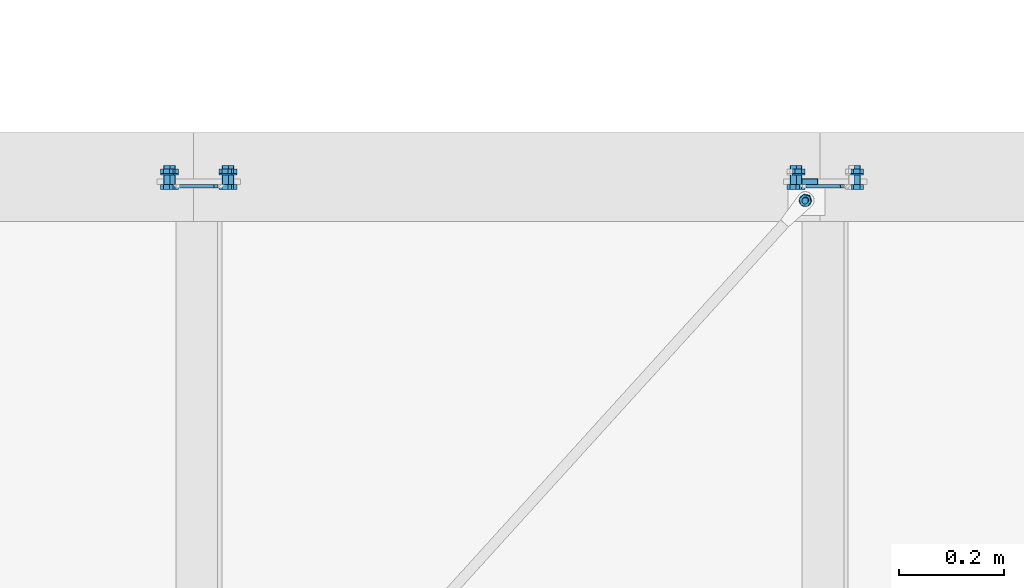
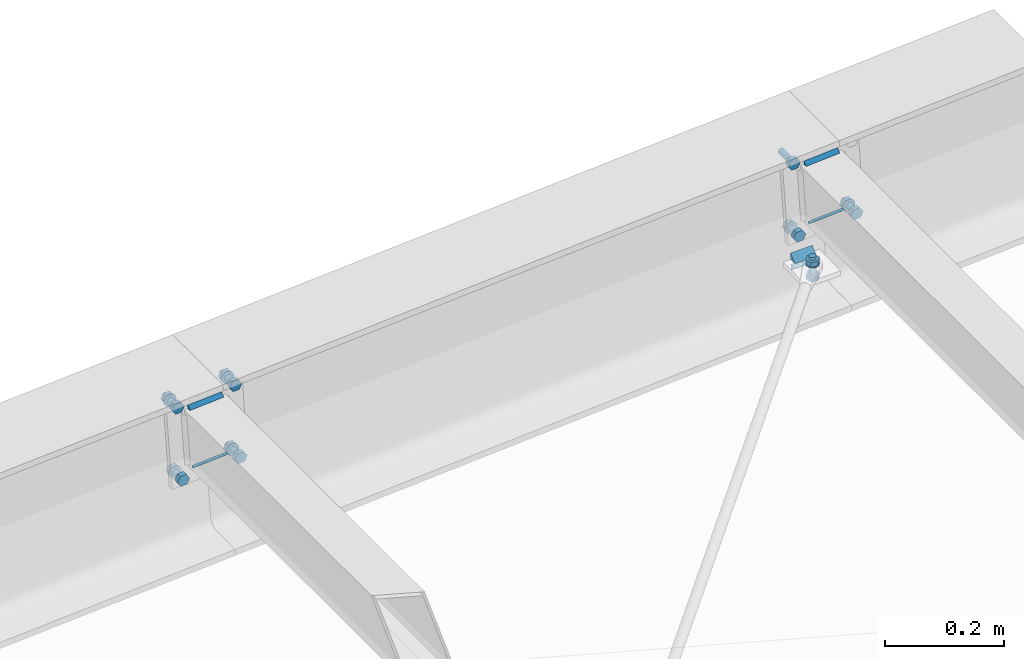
# One storey, part 70 of 72: 30 mechanical fasteners, 10 fasteners.
"""IFC4 building model written with IfcOpenShell, lengths in metres."""

from ifc_helpers import new_model, si_unit, frame, origin_with_axes, place, context, project, spatial, polyline, outline, extrude, type_object, element, save


model = new_model("IFC4")

# Units and contexts
model_context = context("Model", 3, precision=1e-05, world=origin_with_axes())
ifc_project = project(units=[si_unit("LENGTHUNIT", "METRE"), si_unit("AREAUNIT", "SQUARE_METRE"), si_unit("VOLUMEUNIT", "CUBIC_METRE"), si_unit("MASSUNIT", "GRAM", prefix="KILO"), si_unit("TIMEUNIT", "SECOND"), si_unit("PLANEANGLEUNIT", "RADIAN"), si_unit("SOLIDANGLEUNIT", "STERADIAN"), si_unit("THERMODYNAMICTEMPERATUREUNIT", "DEGREE_CELSIUS")], contexts=[model_context])

# Site, building, storey
placement_1 = place(None, origin_with_axes())
site = spatial("IfcSite", under=ifc_project, at=placement_1, Name="Italia", CompositionType="ELEMENT")
building = spatial("IfcBuilding", under=site, at=placement_1, Name="Pensilina", CompositionType="ELEMENT")
storey = spatial("IfcBuildingStorey", under=building, at=placement_1, Name="Storey 0", CompositionType="ELEMENT", Elevation=0.0)

# Fasteners
fastener_type_1 = type_object("IfcFastenerType", Name="Collegamento 0505_0504", PredefinedType="WELD")
placement_2 = place(placement_1, origin_with_axes())
fastener_1_placement = place(placement_2, origin_with_axes())
element("IfcFastener", 1, at=fastener_1_placement, inside=storey, type_object=fastener_type_1, Name="Collegamento 0505_0504", context=model_context, shape_type="SweptSolid", body=[
    extrude(outline(polyline([(0.0, 0.0, 0.0), (0.00717354, -0.00695872, 0.0), (0.0, -0.00695872, 0.0), (0.0, 0.0, 0.0)])), frame((4.64108, 21.106, 4.01231), z_axis=(-0.997731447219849, 0.0, -0.06731953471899), x_axis=(0.0, -1.0, 0.0)), (0.0, 0.0, 1.0), 0.0661003),
])
fastener_type_2 = type_object("IfcFastenerType", Name="Collegamento 0505_0504", PredefinedType="WELD")
fastener_2_placement = place(placement_2, origin_with_axes())
element("IfcFastener", 2, at=fastener_2_placement, inside=storey, type_object=fastener_type_2, Name="Collegamento 0505_0504", context=model_context, shape_type="SweptSolid", body=[
    extrude(outline(polyline([(0.0, 0.0, 0.0), (-0.00717354, 0.00695825, 0.0), (0.0, 0.00695825, 0.0), (0.0, 0.0, 0.0)])), frame((4.58414, 21.106, 3.87435), z_axis=(0.99773120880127, 0.0, 0.067323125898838), x_axis=(0.0, 1.0, 0.0)), (0.0, 0.0, 1.0), 0.0661004),
])
fastener_type_3 = type_object("IfcFastenerType", Name="Collegamento 0505_0504", PredefinedType="WELD")
fastener_3_placement = place(placement_2, origin_with_axes())
element("IfcFastener", 3, at=fastener_3_placement, inside=storey, type_object=fastener_type_3, Name="Collegamento 0505_0504", context=model_context, shape_type="SweptSolid", body=[
    extrude(outline(polyline([(0.0, 0.0, 0.0), (0.00717354, -0.00695872, 0.0), (0.0, -0.00695872, 0.0), (0.0, 0.0, 0.0)])), frame((4.64108, 21.106, 4.01231), z_axis=(-0.997731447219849, 0.0, -0.06731953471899), x_axis=(0.0, -1.0, 0.0)), (0.0, 0.0, 1.0), 0.0661003),
])
fastener_type_4 = type_object("IfcFastenerType", Name="Collegamento 0505_0504", PredefinedType="WELD")
fastener_4_placement = place(placement_2, origin_with_axes())
element("IfcFastener", 4, at=fastener_4_placement, inside=storey, type_object=fastener_type_4, Name="Collegamento 0505_0504", context=model_context, shape_type="SweptSolid", body=[
    extrude(outline(polyline([(0.0, 0.0, 0.0), (-0.00717354, 0.00695825, 0.0), (0.0, 0.00695825, 0.0), (0.0, 0.0, 0.0)])), frame((4.58414, 21.106, 3.87435), z_axis=(0.99773120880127, 0.0, 0.067323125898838), x_axis=(0.0, 1.0, 0.0)), (0.0, 0.0, 1.0), 0.0661004),
])

# Mechanical fasteners
mechanical_fastener_type_1 = type_object("IfcMechanicalFastenerType", Name="Collegamento 0505_0504", PredefinedType="BOLT")
mechanical_fastener_1_placement = place(placement_2, origin_with_axes())
element("IfcMechanicalFastener", 5, at=mechanical_fastener_1_placement, inside=storey, type_object=mechanical_fastener_type_1, Name="Collegamento 0505_0504", NominalDiameter=0.0119998, context=model_context, shape_type="SweptSolid", body=[
    extrude(outline(polyline([(0.0, 0.0, 0.0), (-0.0119729, -0.000808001, 0.0), (-0.0186586, 0.00915694, 0.0), (-0.0133719, 0.0199296, 0.0), (-0.00139904, 0.0207374, 0.0), (0.00528669, 0.0107725, 0.0), (0.0, 0.0, 0.0)])), frame((4.56854, 21.106, 3.85377), z_axis=(0.0, -1.0, 0.0), x_axis=(1.0, 0.0, 0.0)), (0.0, 0.0, 1.0), 0.00959969),
])
mechanical_fastener_type_2 = type_object("IfcMechanicalFastenerType", Name="Collegamento 0505_0504", PredefinedType="BOLT")
mechanical_fastener_2_placement = place(placement_2, origin_with_axes())
element("IfcMechanicalFastener", 6, at=mechanical_fastener_2_placement, inside=storey, type_object=mechanical_fastener_type_2, Name="Collegamento 0505_0504", NominalDiameter=0.012, context=model_context, shape_type="SweptSolid", body=[
    extrude(outline(polyline([(0.0, 0.0, 0.0), (-0.000204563, -0.00155282, 0.0), (-0.000803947, -0.00300002, 0.0), (-0.00175762, -0.00424266, 0.0), (-0.00300026, -0.00519609, 0.0), (-0.00444698, -0.00579548, 0.0), (-0.00600004, -0.00600004, 0.0), (-0.0075531, -0.00579548, 0.0), (-0.00899982, -0.00519609, 0.0), (-0.0102425, -0.00424266, 0.0), (-0.0111961, -0.00300002, 0.0), (-0.0117955, -0.00155282, 0.0), (-0.0120001, 0.0, 0.0), (-0.0117955, 0.00155282, 0.0), (-0.0111961, 0.00300002, 0.0), (-0.0102425, 0.00424266, 0.0), (-0.00899982, 0.00519609, 0.0), (-0.0075531, 0.00579548, 0.0), (-0.00600004, 0.00600004, 0.0), (-0.00444698, 0.00579548, 0.0), (-0.00300026, 0.00519609, 0.0), (-0.00175762, 0.00424266, 0.0), (-0.000803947, 0.00300002, 0.0), (-0.000204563, 0.00155282, 0.0), (0.0, 0.0, 0.0)])), frame((4.56785, 21.142, 3.86373), z_axis=(0.0, -1.0, 0.0), x_axis=(1.0, 0.0, 0.0)), (0.0, 0.0, 1.0), 0.0359993),
])
mechanical_fastener_type_3 = type_object("IfcMechanicalFastenerType", Name="Collegamento 0505_0504", PredefinedType="BOLT")
mechanical_fastener_3_placement = place(placement_2, origin_with_axes())
element("IfcMechanicalFastener", 7, at=mechanical_fastener_3_placement, inside=storey, type_object=mechanical_fastener_type_3, Name="Collegamento 0505_0504", NominalDiameter=0.0119998, context=model_context, shape_type="SweptSolid", body=[
    extrude(outline(polyline([(0.0, 0.0, 0.0), (-0.0119729, -0.000808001, 0.0), (-0.0186586, 0.00915694, 0.0), (-0.0133719, 0.0199296, 0.0), (-0.00139904, 0.0207374, 0.0), (0.00528669, 0.0107725, 0.0), (0.0, 0.0, 0.0)])), frame((4.56854, 21.1356, 3.85377), z_axis=(0.0, -1.0, 0.0), x_axis=(1.0, 0.0, 0.0)), (0.0, 0.0, 1.0), 0.00959969),
])
mechanical_fastener_type_4 = type_object("IfcMechanicalFastenerType", Name="Collegamento 0505_0504", PredefinedType="BOLT")
mechanical_fastener_4_placement = place(placement_2, origin_with_axes())
element("IfcMechanicalFastener", 8, at=mechanical_fastener_4_placement, inside=storey, type_object=mechanical_fastener_type_4, Name="Collegamento 0505_0504", NominalDiameter=0.024, context=model_context, shape_type="SweptSolid", body=[
    extrude(outline(polyline([(0.0, 0.0, 0.0), (-0.000409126, -0.00310588, 0.0), (-0.00160789, -0.00600004, 0.0), (-0.00351477, -0.00848532, 0.0), (-0.00600004, -0.0103922, 0.0), (-0.00889444, -0.0115912, 0.0), (-0.0120001, -0.0120001, 0.0), (-0.0151057, -0.0115912, 0.0), (-0.0180001, -0.0103922, 0.0), (-0.0204854, -0.00848532, 0.0), (-0.0223923, -0.00600004, 0.0), (-0.023591, -0.00310588, 0.0), (-0.0240002, 0.0, 0.0), (-0.023591, 0.00310588, 0.0), (-0.0223923, 0.00600004, 0.0), (-0.0204854, 0.00848532, 0.0), (-0.0180001, 0.0103922, 0.0), (-0.0151057, 0.0115912, 0.0), (-0.0120001, 0.0120001, 0.0), (-0.00889444, 0.0115912, 0.0), (-0.00600004, 0.0103922, 0.0), (-0.00351477, 0.00848532, 0.0), (-0.00160789, 0.00600004, 0.0), (-0.000409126, 0.00310588, 0.0), (0.0, 0.0, 0.0)])), frame((4.57385, 21.126, 3.86373), z_axis=(0.0, -1.0, 0.0), x_axis=(1.0, 0.0, 0.0)), (0.0, 0.0, 1.0), 0.00200081),
])
mechanical_fastener_type_5 = type_object("IfcMechanicalFastenerType", Name="Collegamento 0505_0504", PredefinedType="BOLT")
mechanical_fastener_5_placement = place(placement_2, origin_with_axes())
element("IfcMechanicalFastener", 9, at=mechanical_fastener_5_placement, inside=storey, type_object=mechanical_fastener_type_5, Name="Collegamento 0505_0504", NominalDiameter=0.0119998, context=model_context, shape_type="SweptSolid", body=[
    extrude(outline(polyline([(0.0, 0.0, 0.0), (-0.0119729, -0.000807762, 0.0), (-0.0186586, 0.00915718, 0.0), (-0.0133719, 0.0199296, 0.0), (-0.00139904, 0.0207376, 0.0), (0.00528669, 0.0107727, 0.0), (0.0, 0.0, 0.0)])), frame((4.68028, 21.106, 3.8613), z_axis=(0.0, -1.0, 0.0), x_axis=(1.0, 0.0, 0.0)), (0.0, 0.0, 1.0), 0.00959969),
])
mechanical_fastener_type_6 = type_object("IfcMechanicalFastenerType", Name="Collegamento 0505_0504", PredefinedType="BOLT")
mechanical_fastener_6_placement = place(placement_2, origin_with_axes())
element("IfcMechanicalFastener", 10, at=mechanical_fastener_6_placement, inside=storey, type_object=mechanical_fastener_type_6, Name="Collegamento 0505_0504", NominalDiameter=0.012, context=model_context, shape_type="SweptSolid", body=[
    extrude(outline(polyline([(0.0, 0.0, 0.0), (-0.000204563, -0.00155282, 0.0), (-0.000803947, -0.00300002, 0.0), (-0.00175762, -0.00424266, 0.0), (-0.00300026, -0.00519609, 0.0), (-0.00444698, -0.00579548, 0.0), (-0.00600004, -0.00600004, 0.0), (-0.0075531, -0.00579548, 0.0), (-0.00899982, -0.00519609, 0.0), (-0.0102425, -0.00424266, 0.0), (-0.0111961, -0.00300002, 0.0), (-0.0117955, -0.00155282, 0.0), (-0.0120001, 0.0, 0.0), (-0.0117955, 0.00155282, 0.0), (-0.0111961, 0.00300002, 0.0), (-0.0102425, 0.00424266, 0.0), (-0.00899982, 0.00519609, 0.0), (-0.0075531, 0.00579548, 0.0), (-0.00600004, 0.00600004, 0.0), (-0.00444698, 0.00579548, 0.0), (-0.00300026, 0.00519609, 0.0), (-0.00175762, 0.00424266, 0.0), (-0.000803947, 0.00300002, 0.0), (-0.000204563, 0.00155282, 0.0), (0.0, 0.0, 0.0)])), frame((4.6796, 21.142, 3.87127), z_axis=(0.0, -1.0, 0.0), x_axis=(1.0, 0.0, 0.0)), (0.0, 0.0, 1.0), 0.0359993),
])
mechanical_fastener_type_7 = type_object("IfcMechanicalFastenerType", Name="Collegamento 0505_0504", PredefinedType="BOLT")
mechanical_fastener_7_placement = place(placement_2, origin_with_axes())
element("IfcMechanicalFastener", 11, at=mechanical_fastener_7_placement, inside=storey, type_object=mechanical_fastener_type_7, Name="Collegamento 0505_0504", NominalDiameter=0.0119998, context=model_context, shape_type="SweptSolid", body=[
    extrude(outline(polyline([(0.0, 0.0, 0.0), (-0.0119729, -0.000807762, 0.0), (-0.0186586, 0.00915718, 0.0), (-0.0133719, 0.0199296, 0.0), (-0.00139904, 0.0207376, 0.0), (0.00528669, 0.0107727, 0.0), (0.0, 0.0, 0.0)])), frame((4.68028, 21.1356, 3.8613), z_axis=(0.0, -1.0, 0.0), x_axis=(1.0, 0.0, 0.0)), (0.0, 0.0, 1.0), 0.00959969),
])
mechanical_fastener_type_8 = type_object("IfcMechanicalFastenerType", Name="Collegamento 0505_0504", PredefinedType="BOLT")
mechanical_fastener_8_placement = place(placement_2, origin_with_axes())
element("IfcMechanicalFastener", 12, at=mechanical_fastener_8_placement, inside=storey, type_object=mechanical_fastener_type_8, Name="Collegamento 0505_0504", NominalDiameter=0.024, context=model_context, shape_type="SweptSolid", body=[
    extrude(outline(polyline([(0.0, 0.0, 0.0), (-0.000409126, -0.00310588, 0.0), (-0.00160789, -0.00600004, 0.0), (-0.00351477, -0.00848532, 0.0), (-0.00600004, -0.0103922, 0.0), (-0.00889444, -0.0115912, 0.0), (-0.0120001, -0.0120001, 0.0), (-0.0151057, -0.0115912, 0.0), (-0.0180001, -0.0103922, 0.0), (-0.0204854, -0.00848532, 0.0), (-0.0223923, -0.00600004, 0.0), (-0.023591, -0.00310588, 0.0), (-0.0240002, 0.0, 0.0), (-0.023591, 0.00310588, 0.0), (-0.0223923, 0.00600004, 0.0), (-0.0204854, 0.00848532, 0.0), (-0.0180001, 0.0103922, 0.0), (-0.0151057, 0.0115912, 0.0), (-0.0120001, 0.0120001, 0.0), (-0.00889444, 0.0115912, 0.0), (-0.00600004, 0.0103922, 0.0), (-0.00351477, 0.00848532, 0.0), (-0.00160789, 0.00600004, 0.0), (-0.000409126, 0.00310588, 0.0), (0.0, 0.0, 0.0)])), frame((4.6856, 21.126, 3.87127), z_axis=(0.0, -1.0, 0.0), x_axis=(1.0, 0.0, 0.0)), (0.0, 0.0, 1.0), 0.00200081),
])
mechanical_fastener_type_9 = type_object("IfcMechanicalFastenerType", Name="Collegamento 0505_0504", PredefinedType="BOLT")
mechanical_fastener_9_placement = place(placement_2, origin_with_axes())
element("IfcMechanicalFastener", 13, at=mechanical_fastener_9_placement, inside=storey, type_object=mechanical_fastener_type_9, Name="Collegamento 0505_0504", NominalDiameter=0.012, context=model_context, shape_type="SweptSolid", body=[
    extrude(outline(polyline([(0.0, 0.0, 0.0), (-0.0119729, -0.000807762, 0.0), (-0.0186586, 0.00915718, 0.0), (-0.0133719, 0.0199299, 0.0), (-0.00139904, 0.0207376, 0.0), (0.00528669, 0.0107727, 0.0), (0.0, 0.0, 0.0)])), frame((4.5583, 21.106, 4.00542), z_axis=(0.0, -1.0, 0.0), x_axis=(1.0, 0.0, 0.0)), (0.0, 0.0, 1.0), 0.00959969),
])
mechanical_fastener_type_10 = type_object("IfcMechanicalFastenerType", Name="Collegamento 0505_0504", PredefinedType="BOLT")
mechanical_fastener_10_placement = place(placement_2, origin_with_axes())
element("IfcMechanicalFastener", 14, at=mechanical_fastener_10_placement, inside=storey, type_object=mechanical_fastener_type_10, Name="Collegamento 0505_0504", NominalDiameter=0.012, context=model_context, shape_type="SweptSolid", body=[
    extrude(outline(polyline([(0.0, 0.0, 0.0), (-0.000204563, -0.00155306, 0.0), (-0.000803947, -0.00299978, 0.0), (-0.00175762, -0.00424242, 0.0), (-0.00300026, -0.00519609, 0.0), (-0.00444698, -0.00579548, 0.0), (-0.00600004, -0.00600004, 0.0), (-0.0075531, -0.00579548, 0.0), (-0.00899982, -0.00519609, 0.0), (-0.0102425, -0.00424242, 0.0), (-0.0111961, -0.00299978, 0.0), (-0.0117955, -0.00155306, 0.0), (-0.0120001, 0.0, 0.0), (-0.0117955, 0.00155306, 0.0), (-0.0111961, 0.00299978, 0.0), (-0.0102425, 0.00424242, 0.0), (-0.00899982, 0.00519609, 0.0), (-0.0075531, 0.00579548, 0.0), (-0.00600004, 0.00600004, 0.0), (-0.00444698, 0.00579548, 0.0), (-0.00300026, 0.00519609, 0.0), (-0.00175762, 0.00424242, 0.0), (-0.000803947, 0.00299978, 0.0), (-0.000204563, 0.00155306, 0.0), (0.0, 0.0, 0.0)])), frame((4.55762, 21.142, 4.01539), z_axis=(0.0, -1.0, 0.0), x_axis=(1.0, 0.0, 0.0)), (0.0, 0.0, 1.0), 0.0359993),
])
mechanical_fastener_type_11 = type_object("IfcMechanicalFastenerType", Name="Collegamento 0505_0504", PredefinedType="BOLT")
mechanical_fastener_11_placement = place(placement_2, origin_with_axes())
element("IfcMechanicalFastener", 15, at=mechanical_fastener_11_placement, inside=storey, type_object=mechanical_fastener_type_11, Name="Collegamento 0505_0504", NominalDiameter=0.012, context=model_context, shape_type="SweptSolid", body=[
    extrude(outline(polyline([(0.0, 0.0, 0.0), (-0.0119729, -0.000807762, 0.0), (-0.0186586, 0.00915718, 0.0), (-0.0133719, 0.0199299, 0.0), (-0.00139904, 0.0207376, 0.0), (0.00528669, 0.0107727, 0.0), (0.0, 0.0, 0.0)])), frame((4.5583, 21.1356, 4.00542), z_axis=(0.0, -1.0, 0.0), x_axis=(1.0, 0.0, 0.0)), (0.0, 0.0, 1.0), 0.00959969),
])
mechanical_fastener_type_12 = type_object("IfcMechanicalFastenerType", Name="Collegamento 0505_0504", PredefinedType="BOLT")
mechanical_fastener_12_placement = place(placement_2, origin_with_axes())
element("IfcMechanicalFastener", 16, at=mechanical_fastener_12_placement, inside=storey, type_object=mechanical_fastener_type_12, Name="Collegamento 0505_0504", NominalDiameter=0.024, context=model_context, shape_type="SweptSolid", body=[
    extrude(outline(polyline([(0.0, 0.0, 0.0), (-0.000409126, -0.00310564, 0.0), (-0.00160789, -0.00600004, 0.0), (-0.00351477, -0.00848532, 0.0), (-0.00600004, -0.0103922, 0.0), (-0.00889444, -0.011591, 0.0), (-0.0120001, -0.0120001, 0.0), (-0.0151057, -0.011591, 0.0), (-0.0180001, -0.0103922, 0.0), (-0.0204854, -0.00848532, 0.0), (-0.0223923, -0.00600004, 0.0), (-0.023591, -0.00310564, 0.0), (-0.0240002, 0.0, 0.0), (-0.023591, 0.00310564, 0.0), (-0.0223923, 0.00600004, 0.0), (-0.0204854, 0.00848532, 0.0), (-0.0180001, 0.0103922, 0.0), (-0.0151057, 0.011591, 0.0), (-0.0120001, 0.0120001, 0.0), (-0.00889444, 0.011591, 0.0), (-0.00600004, 0.0103922, 0.0), (-0.00351477, 0.00848532, 0.0), (-0.00160789, 0.00600004, 0.0), (-0.000409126, 0.00310564, 0.0), (0.0, 0.0, 0.0)])), frame((4.56362, 21.126, 4.01539), z_axis=(0.0, -1.0, 0.0), x_axis=(1.0, 0.0, 0.0)), (0.0, 0.0, 1.0), 0.00200081),
])
mechanical_fastener_type_13 = type_object("IfcMechanicalFastenerType", Name="Collegamento 0505_0504", PredefinedType="BOLT")
mechanical_fastener_13_placement = place(placement_2, origin_with_axes())
element("IfcMechanicalFastener", 17, at=mechanical_fastener_13_placement, inside=storey, type_object=mechanical_fastener_type_13, Name="Collegamento 0505_0504", NominalDiameter=0.012, context=model_context, shape_type="SweptSolid", body=[
    extrude(outline(polyline([(0.0, 0.0, 0.0), (-0.0119729, -0.000807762, 0.0), (-0.0186586, 0.00915718, 0.0), (-0.0133719, 0.0199299, 0.0), (-0.00139904, 0.0207376, 0.0), (0.00528669, 0.0107727, 0.0), (0.0, 0.0, 0.0)])), frame((4.67005, 21.106, 4.01296), z_axis=(0.0, -1.0, 0.0), x_axis=(1.0, 0.0, 0.0)), (0.0, 0.0, 1.0), 0.00959969),
])
mechanical_fastener_type_14 = type_object("IfcMechanicalFastenerType", Name="Collegamento 0505_0504", PredefinedType="BOLT")
mechanical_fastener_14_placement = place(placement_2, origin_with_axes())
element("IfcMechanicalFastener", 18, at=mechanical_fastener_14_placement, inside=storey, type_object=mechanical_fastener_type_14, Name="Collegamento 0505_0504", NominalDiameter=0.012, context=model_context, shape_type="SweptSolid", body=[
    extrude(outline(polyline([(0.0, 0.0, 0.0), (-0.000204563, -0.00155306, 0.0), (-0.000803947, -0.00299978, 0.0), (-0.00175762, -0.00424242, 0.0), (-0.00300026, -0.00519609, 0.0), (-0.00444698, -0.00579548, 0.0), (-0.00600004, -0.00600004, 0.0), (-0.0075531, -0.00579548, 0.0), (-0.00899982, -0.00519609, 0.0), (-0.0102425, -0.00424242, 0.0), (-0.0111961, -0.00299978, 0.0), (-0.0117955, -0.00155306, 0.0), (-0.0120001, 0.0, 0.0), (-0.0117955, 0.00155306, 0.0), (-0.0111961, 0.00299978, 0.0), (-0.0102425, 0.00424242, 0.0), (-0.00899982, 0.00519609, 0.0), (-0.0075531, 0.00579548, 0.0), (-0.00600004, 0.00600004, 0.0), (-0.00444698, 0.00579548, 0.0), (-0.00300026, 0.00519609, 0.0), (-0.00175762, 0.00424242, 0.0), (-0.000803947, 0.00299978, 0.0), (-0.000204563, 0.00155306, 0.0), (0.0, 0.0, 0.0)])), frame((4.66936, 21.142, 4.02292), z_axis=(0.0, -1.0, 0.0), x_axis=(1.0, 0.0, 0.0)), (0.0, 0.0, 1.0), 0.0359993),
])
mechanical_fastener_type_15 = type_object("IfcMechanicalFastenerType", Name="Collegamento 0505_0504", PredefinedType="BOLT")
mechanical_fastener_15_placement = place(placement_2, origin_with_axes())
element("IfcMechanicalFastener", 19, at=mechanical_fastener_15_placement, inside=storey, type_object=mechanical_fastener_type_15, Name="Collegamento 0505_0504", NominalDiameter=0.012, context=model_context, shape_type="SweptSolid", body=[
    extrude(outline(polyline([(0.0, 0.0, 0.0), (-0.0119729, -0.000807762, 0.0), (-0.0186586, 0.00915718, 0.0), (-0.0133719, 0.0199299, 0.0), (-0.00139904, 0.0207376, 0.0), (0.00528669, 0.0107727, 0.0), (0.0, 0.0, 0.0)])), frame((4.67005, 21.1356, 4.01296), z_axis=(0.0, -1.0, 0.0), x_axis=(1.0, 0.0, 0.0)), (0.0, 0.0, 1.0), 0.00959969),
])
mechanical_fastener_type_16 = type_object("IfcMechanicalFastenerType", Name="Collegamento 0505_0504", PredefinedType="BOLT")
mechanical_fastener_16_placement = place(placement_2, origin_with_axes())
element("IfcMechanicalFastener", 20, at=mechanical_fastener_16_placement, inside=storey, type_object=mechanical_fastener_type_16, Name="Collegamento 0505_0504", NominalDiameter=0.024, context=model_context, shape_type="SweptSolid", body=[
    extrude(outline(polyline([(0.0, 0.0, 0.0), (-0.000409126, -0.00310564, 0.0), (-0.00160789, -0.00600004, 0.0), (-0.00351477, -0.00848532, 0.0), (-0.00600004, -0.0103922, 0.0), (-0.00889444, -0.011591, 0.0), (-0.0120001, -0.0120001, 0.0), (-0.0151057, -0.011591, 0.0), (-0.0180001, -0.0103922, 0.0), (-0.0204854, -0.00848532, 0.0), (-0.0223923, -0.00600004, 0.0), (-0.023591, -0.00310564, 0.0), (-0.0240002, 0.0, 0.0), (-0.023591, 0.00310564, 0.0), (-0.0223923, 0.00600004, 0.0), (-0.0204854, 0.00848532, 0.0), (-0.0180001, 0.0103922, 0.0), (-0.0151057, 0.011591, 0.0), (-0.0120001, 0.0120001, 0.0), (-0.00889444, 0.011591, 0.0), (-0.00600004, 0.0103922, 0.0), (-0.00351477, 0.00848532, 0.0), (-0.00160789, 0.00600004, 0.0), (-0.000409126, 0.00310564, 0.0), (0.0, 0.0, 0.0)])), frame((4.67536, 21.126, 4.02292), z_axis=(0.0, -1.0, 0.0), x_axis=(1.0, 0.0, 0.0)), (0.0, 0.0, 1.0), 0.00200081),
])
mechanical_fastener_type_17 = type_object("IfcMechanicalFastenerType", Name="Collegamento 0605_0204", PredefinedType="BOLT")
mechanical_fastener_17_placement = place(placement_2, origin_with_axes())
element("IfcMechanicalFastener", 21, at=mechanical_fastener_17_placement, inside=storey, type_object=mechanical_fastener_type_17, Name="Collegamento 0605_0204", NominalDiameter=0.0119994, context=model_context, shape_type="SweptSolid", body=[
    extrude(outline(polyline([(0.0, 0.0, 0.0), (-8.58307e-06, 0.012001, 0.0), (-0.0104055, 0.0179939, 0.0), (-0.020793, 0.0119839, 0.0), (-0.0207834, -1.52588e-05, 0.0), (-0.0103874, -0.00600815, 0.0), (0.0, 0.0, 0.0)])), frame((5.76071, 21.0784, 3.87753), z_axis=(0.030944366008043, 0.034172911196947, -0.998936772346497), x_axis=(-0.741254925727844, 0.67122358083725, 0.0)), (0.0, 0.0, 1.0), 0.00960012),
])
mechanical_fastener_type_18 = type_object("IfcMechanicalFastenerType", Name="Collegamento 0605_0204", PredefinedType="BOLT")
mechanical_fastener_18_placement = place(placement_2, origin_with_axes())
element("IfcMechanicalFastener", 22, at=mechanical_fastener_18_placement, inside=storey, type_object=mechanical_fastener_type_18, Name="Collegamento 0605_0204", NominalDiameter=0.012, context=model_context, shape_type="SweptSolid", body=[
    extrude(outline(polyline([(0.0, 0.0, 0.0), (-0.000205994, -0.00155449, 0.0), (-0.000804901, -0.00300026, 0.0), (-0.00175762, -0.00424385, 0.0), (-0.00300026, -0.00519562, 0.0), (-0.00444794, -0.00579643, 0.0), (-0.00600052, -0.00600052, 0.0), (-0.0075531, -0.00579643, 0.0), (-0.00899982, -0.00519562, 0.0), (-0.0102425, -0.00424194, 0.0), (-0.0111961, -0.00300026, 0.0), (-0.011796, -0.00155258, 0.0), (-0.012001, 0.0, 0.0), (-0.011795, 0.00155258, 0.0), (-0.0111961, 0.00300026, 0.0), (-0.0102434, 0.00424194, 0.0), (-0.00900078, 0.00519562, 0.0), (-0.0075531, 0.00579643, 0.0), (-0.00600052, 0.00599861, 0.0), (-0.00444794, 0.00579643, 0.0), (-0.00300121, 0.00519562, 0.0), (-0.00175858, 0.00424194, 0.0), (-0.000804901, 0.00300026, 0.0), (-0.00020504, 0.00155258, 0.0), (0.0, 0.0, 0.0)])), frame((5.76681, 21.0785, 3.91576), z_axis=(0.030969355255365, 0.034131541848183, -0.998937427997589), x_axis=(-0.740580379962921, 0.671967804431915, 0.0)), (0.0, 0.0, 1.0), 0.038),
])
mechanical_fastener_type_19 = type_object("IfcMechanicalFastenerType", Name="Collegamento 0605_0204", PredefinedType="BOLT")
mechanical_fastener_19_placement = place(placement_2, origin_with_axes())
element("IfcMechanicalFastener", 23, at=mechanical_fastener_19_placement, inside=storey, type_object=mechanical_fastener_type_19, Name="Collegamento 0605_0204", NominalDiameter=0.0119997, context=model_context, shape_type="SweptSolid", body=[
    extrude(outline(polyline([(0.0, 0.0, 0.0), (0.0, 0.0119991, 0.0), (-0.0103931, 0.0179977, 0.0), (-0.0207853, 0.0119991, 0.0), (-0.0207844, -1.90735e-06, 0.0), (-0.0103922, -0.00600052, 0.0), (0.0, 0.0, 0.0)])), frame((5.75973, 21.0773, 3.90909), z_axis=(0.030993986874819, 0.034172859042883, -0.998935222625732), x_axis=(-0.740719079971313, 0.671814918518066, 0.0)), (0.0, 0.0, 1.0), 0.00960013),
])
mechanical_fastener_type_20 = type_object("IfcMechanicalFastenerType", Name="Collegamento 0605_0204", PredefinedType="BOLT")
mechanical_fastener_20_placement = place(placement_2, origin_with_axes())
element("IfcMechanicalFastener", 24, at=mechanical_fastener_20_placement, inside=storey, type_object=mechanical_fastener_type_20, Name="Collegamento 0605_0204", NominalDiameter=0.024, context=model_context, shape_type="SweptSolid", body=[
    extrude(outline(polyline([(0.0, 0.0, 0.0), (-0.000408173, -0.00310516, 0.0), (-0.00160694, -0.00599861, 0.0), (-0.00351524, -0.00848579, 0.0), (-0.00599957, -0.0103912, 0.0), (-0.00889397, -0.011591, 0.0), (-0.0120001, -0.0119991, 0.0), (-0.0151052, -0.011591, 0.0), (-0.0179996, -0.0103912, 0.0), (-0.0204849, -0.00848579, 0.0), (-0.0223923, -0.00600052, 0.0), (-0.023591, -0.00310516, 0.0), (-0.0240002, 0.0, 0.0), (-0.023591, 0.00310516, 0.0), (-0.0223923, 0.00600052, 0.0), (-0.020484, 0.00848579, 0.0), (-0.0179996, 0.0103931, 0.0), (-0.0151052, 0.011591, 0.0), (-0.0120001, 0.012001, 0.0), (-0.00889397, 0.011591, 0.0), (-0.00599957, 0.0103931, 0.0), (-0.00351429, 0.00848579, 0.0), (-0.00160694, 0.00600052, 0.0), (-0.000408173, 0.00310707, 0.0), (0.0, 0.0, 0.0)])), frame((5.76285, 21.0831, 3.89978), z_axis=(0.030993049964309, 0.034330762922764, -0.998929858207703), x_axis=(-0.742268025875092, 0.670103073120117, 0.0)), (0.0, 0.0, 1.0), 0.00200009),
])

# Fasteners
fastener_type_5 = type_object("IfcFastenerType", Name="Collegamento 0605_0204", PredefinedType="WELD")
fastener_5_placement = place(placement_2, origin_with_axes())
element("IfcFastener", 25, at=fastener_5_placement, inside=storey, type_object=fastener_type_5, Name="Collegamento 0605_0204", context=model_context, shape_type="SweptSolid", body=[
    extrude(outline(polyline([(0.0, 0.0, 0.0), (0.0136948, -0.0142241, 0.0), (-0.000471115, -0.0137398, 0.0), (0.0, 0.0, 0.0)])), frame((5.79466, 21.1158, 3.90358), z_axis=(-0.9995197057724, 0.0, -0.030990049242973), x_axis=(0.0, -1.0, 0.0)), (0.0, 0.0, 1.0), 0.0420982),
])
fastener_type_6 = type_object("IfcFastenerType", Name="Collegamento 0605_0204", PredefinedType="WELD")
fastener_6_placement = place(placement_2, origin_with_axes())
element("IfcFastener", 26, at=fastener_6_placement, inside=storey, type_object=fastener_type_6, Name="Collegamento 0605_0204", context=model_context, shape_type="SweptSolid", body=[
    extrude(outline(polyline([(0.0, 0.0, 0.0), (-0.0146351, 0.0132561, 0.0), (-0.000469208, 0.0137401, 0.0), (0.0, 0.0, 0.0)])), frame((5.75374, 21.117, 3.86492), z_axis=(0.999519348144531, 0.0, 0.031001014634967), x_axis=(0.0, 1.0, 0.0)), (0.0, 0.0, 1.0), 0.0420987),
])
fastener_type_7 = type_object("IfcFastenerType", Name="Collegamento 0605_0604", PredefinedType="WELD")
fastener_7_placement = place(placement_2, origin_with_axes())
element("IfcFastener", 27, at=fastener_7_placement, inside=storey, type_object=fastener_type_7, Name="Collegamento 0605_0604", context=model_context, shape_type="SweptSolid", body=[
    extrude(outline(polyline([(0.0, 0.0, 0.0), (0.00717354, -0.00695801, 0.0), (0.0, -0.00695801, 0.0), (0.0, 0.0, 0.0)])), frame((5.83828, 21.106, 4.09456), z_axis=(-0.997731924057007, 0.0, -0.067312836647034), x_axis=(0.0, -1.0, 0.0)), (0.0, 0.0, 1.0), 0.0660998),
])
fastener_type_8 = type_object("IfcFastenerType", Name="Collegamento 0605_0604", PredefinedType="WELD")
fastener_8_placement = place(placement_2, origin_with_axes())
element("IfcFastener", 28, at=fastener_8_placement, inside=storey, type_object=fastener_type_8, Name="Collegamento 0605_0604", context=model_context, shape_type="SweptSolid", body=[
    extrude(outline(polyline([(0.0, 0.0, 0.0), (-0.00717354, 0.00695801, 0.0), (0.0, 0.00695801, 0.0), (0.0, 0.0, 0.0)])), frame((5.78134, 21.106, 3.9566), z_axis=(0.997731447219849, 0.0, 0.06731953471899), x_axis=(0.0, 1.0, 0.0)), (0.0, 0.0, 1.0), 0.0661003),
])
fastener_type_9 = type_object("IfcFastenerType", Name="Collegamento 0605_0604", PredefinedType="WELD")
fastener_9_placement = place(placement_2, origin_with_axes())
element("IfcFastener", 29, at=fastener_9_placement, inside=storey, type_object=fastener_type_9, Name="Collegamento 0605_0604", context=model_context, shape_type="SweptSolid", body=[
    extrude(outline(polyline([(0.0, 0.0, 0.0), (0.00717354, -0.00695801, 0.0), (0.0, -0.00695801, 0.0), (0.0, 0.0, 0.0)])), frame((5.83828, 21.106, 4.09456), z_axis=(-0.997731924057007, 0.0, -0.067312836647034), x_axis=(0.0, -1.0, 0.0)), (0.0, 0.0, 1.0), 0.0660998),
])
fastener_type_10 = type_object("IfcFastenerType", Name="Collegamento 0605_0604", PredefinedType="WELD")
fastener_10_placement = place(placement_2, origin_with_axes())
element("IfcFastener", 30, at=fastener_10_placement, inside=storey, type_object=fastener_type_10, Name="Collegamento 0605_0604", context=model_context, shape_type="SweptSolid", body=[
    extrude(outline(polyline([(0.0, 0.0, 0.0), (-0.00717354, 0.00695801, 0.0), (0.0, 0.00695801, 0.0), (0.0, 0.0, 0.0)])), frame((5.78134, 21.106, 3.9566), z_axis=(0.997731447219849, 0.0, 0.06731953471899), x_axis=(0.0, 1.0, 0.0)), (0.0, 0.0, 1.0), 0.0661003),
])

# Mechanical fasteners
mechanical_fastener_type_21 = type_object("IfcMechanicalFastenerType", Name="Collegamento 0605_0604", PredefinedType="BOLT")
mechanical_fastener_21_placement = place(placement_2, origin_with_axes())
element("IfcMechanicalFastener", 31, at=mechanical_fastener_21_placement, inside=storey, type_object=mechanical_fastener_type_21, Name="Collegamento 0605_0604", NominalDiameter=0.0119998, context=model_context, shape_type="SweptSolid", body=[
    extrude(outline(polyline([(0.0, 0.0, 0.0), (-0.0119729, -0.000807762, 0.0), (-0.0186586, 0.00915718, 0.0), (-0.0133719, 0.0199296, 0.0), (-0.00139904, 0.0207376, 0.0), (0.00528669, 0.0107727, 0.0), (0.0, 0.0, 0.0)])), frame((5.76574, 21.106, 3.93602), z_axis=(0.0, -1.0, 0.0), x_axis=(1.0, 0.0, 0.0)), (0.0, 0.0, 1.0), 0.00959969),
])
mechanical_fastener_type_22 = type_object("IfcMechanicalFastenerType", Name="Collegamento 0605_0604", PredefinedType="BOLT")
mechanical_fastener_22_placement = place(placement_2, origin_with_axes())
element("IfcMechanicalFastener", 32, at=mechanical_fastener_22_placement, inside=storey, type_object=mechanical_fastener_type_22, Name="Collegamento 0605_0604", NominalDiameter=0.012, context=model_context, shape_type="SweptSolid", body=[
    extrude(outline(polyline([(0.0, 0.0, 0.0), (-0.000204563, -0.00155282, 0.0), (-0.000803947, -0.00300002, 0.0), (-0.00175762, -0.00424266, 0.0), (-0.00300026, -0.00519609, 0.0), (-0.00444698, -0.00579548, 0.0), (-0.00600004, -0.00600004, 0.0), (-0.0075531, -0.00579548, 0.0), (-0.00899982, -0.00519609, 0.0), (-0.0102425, -0.00424266, 0.0), (-0.0111961, -0.00300002, 0.0), (-0.0117955, -0.00155282, 0.0), (-0.0120001, 0.0, 0.0), (-0.0117955, 0.00155282, 0.0), (-0.0111961, 0.00300002, 0.0), (-0.0102425, 0.00424266, 0.0), (-0.00899982, 0.00519609, 0.0), (-0.0075531, 0.00579548, 0.0), (-0.00600004, 0.00600004, 0.0), (-0.00444698, 0.00579548, 0.0), (-0.00300026, 0.00519609, 0.0), (-0.00175762, 0.00424266, 0.0), (-0.000803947, 0.00300002, 0.0), (-0.000204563, 0.00155282, 0.0), (0.0, 0.0, 0.0)])), frame((5.76506, 21.142, 3.94598), z_axis=(0.0, -1.0, 0.0), x_axis=(1.0, 0.0, 0.0)), (0.0, 0.0, 1.0), 0.0359993),
])
mechanical_fastener_type_23 = type_object("IfcMechanicalFastenerType", Name="Collegamento 0605_0604", PredefinedType="BOLT")
mechanical_fastener_23_placement = place(placement_2, origin_with_axes())
element("IfcMechanicalFastener", 33, at=mechanical_fastener_23_placement, inside=storey, type_object=mechanical_fastener_type_23, Name="Collegamento 0605_0604", NominalDiameter=0.0119998, context=model_context, shape_type="SweptSolid", body=[
    extrude(outline(polyline([(0.0, 0.0, 0.0), (-0.0119729, -0.000807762, 0.0), (-0.0186586, 0.00915718, 0.0), (-0.0133719, 0.0199296, 0.0), (-0.00139904, 0.0207376, 0.0), (0.00528669, 0.0107727, 0.0), (0.0, 0.0, 0.0)])), frame((5.76574, 21.1356, 3.93602), z_axis=(0.0, -1.0, 0.0), x_axis=(1.0, 0.0, 0.0)), (0.0, 0.0, 1.0), 0.00959969),
])
mechanical_fastener_type_24 = type_object("IfcMechanicalFastenerType", Name="Collegamento 0605_0604", PredefinedType="BOLT")
mechanical_fastener_24_placement = place(placement_2, origin_with_axes())
element("IfcMechanicalFastener", 34, at=mechanical_fastener_24_placement, inside=storey, type_object=mechanical_fastener_type_24, Name="Collegamento 0605_0604", NominalDiameter=0.024, context=model_context, shape_type="SweptSolid", body=[
    extrude(outline(polyline([(0.0, 0.0, 0.0), (-0.000409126, -0.00310588, 0.0), (-0.00160789, -0.00600004, 0.0), (-0.00351477, -0.00848532, 0.0), (-0.00600004, -0.0103922, 0.0), (-0.00889444, -0.0115912, 0.0), (-0.0120001, -0.0120001, 0.0), (-0.0151057, -0.0115912, 0.0), (-0.0180001, -0.0103922, 0.0), (-0.0204854, -0.00848532, 0.0), (-0.0223923, -0.00600004, 0.0), (-0.023591, -0.00310588, 0.0), (-0.0240002, 0.0, 0.0), (-0.023591, 0.00310588, 0.0), (-0.0223923, 0.00600004, 0.0), (-0.0204854, 0.00848532, 0.0), (-0.0180001, 0.0103922, 0.0), (-0.0151057, 0.0115912, 0.0), (-0.0120001, 0.0120001, 0.0), (-0.00889444, 0.0115912, 0.0), (-0.00600004, 0.0103922, 0.0), (-0.00351477, 0.00848532, 0.0), (-0.00160789, 0.00600004, 0.0), (-0.000409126, 0.00310588, 0.0), (0.0, 0.0, 0.0)])), frame((5.77106, 21.126, 3.94598), z_axis=(0.0, -1.0, 0.0), x_axis=(1.0, 0.0, 0.0)), (0.0, 0.0, 1.0), 0.00200081),
])
mechanical_fastener_type_25 = type_object("IfcMechanicalFastenerType", Name="Collegamento 0605_0604", PredefinedType="BOLT")
mechanical_fastener_25_placement = place(placement_2, origin_with_axes())
element("IfcMechanicalFastener", 35, at=mechanical_fastener_25_placement, inside=storey, type_object=mechanical_fastener_type_25, Name="Collegamento 0605_0604", NominalDiameter=0.0119998, context=model_context, shape_type="SweptSolid", body=[
    extrude(outline(polyline([(0.0, 0.0, 0.0), (-0.0119729, -0.000807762, 0.0), (-0.0186586, 0.00915718, 0.0), (-0.0133719, 0.0199296, 0.0), (-0.00139904, 0.0207376, 0.0), (0.00528669, 0.0107727, 0.0), (0.0, 0.0, 0.0)])), frame((5.87749, 21.106, 3.94355), z_axis=(0.0, -1.0, 0.0), x_axis=(1.0, 0.0, 0.0)), (0.0, 0.0, 1.0), 0.00959969),
])
mechanical_fastener_type_26 = type_object("IfcMechanicalFastenerType", Name="Collegamento 0605_0604", PredefinedType="BOLT")
mechanical_fastener_26_placement = place(placement_2, origin_with_axes())
element("IfcMechanicalFastener", 36, at=mechanical_fastener_26_placement, inside=storey, type_object=mechanical_fastener_type_26, Name="Collegamento 0605_0604", NominalDiameter=0.012, context=model_context, shape_type="SweptSolid", body=[
    extrude(outline(polyline([(0.0, 0.0, 0.0), (-0.000204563, -0.00155282, 0.0), (-0.000803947, -0.00300002, 0.0), (-0.00175762, -0.00424266, 0.0), (-0.00300026, -0.00519609, 0.0), (-0.00444698, -0.00579548, 0.0), (-0.00600004, -0.00600004, 0.0), (-0.0075531, -0.00579548, 0.0), (-0.00899982, -0.00519609, 0.0), (-0.0102425, -0.00424266, 0.0), (-0.0111961, -0.00300002, 0.0), (-0.0117955, -0.00155282, 0.0), (-0.0120001, 0.0, 0.0), (-0.0117955, 0.00155282, 0.0), (-0.0111961, 0.00300002, 0.0), (-0.0102425, 0.00424266, 0.0), (-0.00899982, 0.00519609, 0.0), (-0.0075531, 0.00579548, 0.0), (-0.00600004, 0.00600004, 0.0), (-0.00444698, 0.00579548, 0.0), (-0.00300026, 0.00519609, 0.0), (-0.00175762, 0.00424266, 0.0), (-0.000803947, 0.00300002, 0.0), (-0.000204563, 0.00155282, 0.0), (0.0, 0.0, 0.0)])), frame((5.8768, 21.142, 3.95352), z_axis=(0.0, -1.0, 0.0), x_axis=(1.0, 0.0, 0.0)), (0.0, 0.0, 1.0), 0.0359993),
])
mechanical_fastener_type_27 = type_object("IfcMechanicalFastenerType", Name="Collegamento 0605_0604", PredefinedType="BOLT")
mechanical_fastener_27_placement = place(placement_2, origin_with_axes())
element("IfcMechanicalFastener", 37, at=mechanical_fastener_27_placement, inside=storey, type_object=mechanical_fastener_type_27, Name="Collegamento 0605_0604", NominalDiameter=0.0119998, context=model_context, shape_type="SweptSolid", body=[
    extrude(outline(polyline([(0.0, 0.0, 0.0), (-0.0119729, -0.000807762, 0.0), (-0.0186586, 0.00915718, 0.0), (-0.0133719, 0.0199296, 0.0), (-0.00139904, 0.0207376, 0.0), (0.00528669, 0.0107727, 0.0), (0.0, 0.0, 0.0)])), frame((5.87749, 21.1356, 3.94355), z_axis=(0.0, -1.0, 0.0), x_axis=(1.0, 0.0, 0.0)), (0.0, 0.0, 1.0), 0.00959969),
])
mechanical_fastener_type_28 = type_object("IfcMechanicalFastenerType", Name="Collegamento 0605_0604", PredefinedType="BOLT")
mechanical_fastener_28_placement = place(placement_2, origin_with_axes())
element("IfcMechanicalFastener", 38, at=mechanical_fastener_28_placement, inside=storey, type_object=mechanical_fastener_type_28, Name="Collegamento 0605_0604", NominalDiameter=0.024, context=model_context, shape_type="SweptSolid", body=[
    extrude(outline(polyline([(0.0, 0.0, 0.0), (-0.000409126, -0.00310588, 0.0), (-0.00160789, -0.00600004, 0.0), (-0.00351477, -0.00848532, 0.0), (-0.00600004, -0.0103922, 0.0), (-0.00889444, -0.0115912, 0.0), (-0.0120001, -0.0120001, 0.0), (-0.0151057, -0.0115912, 0.0), (-0.0180001, -0.0103922, 0.0), (-0.0204854, -0.00848532, 0.0), (-0.0223923, -0.00600004, 0.0), (-0.023591, -0.00310588, 0.0), (-0.0240002, 0.0, 0.0), (-0.023591, 0.00310588, 0.0), (-0.0223923, 0.00600004, 0.0), (-0.0204854, 0.00848532, 0.0), (-0.0180001, 0.0103922, 0.0), (-0.0151057, 0.0115912, 0.0), (-0.0120001, 0.0120001, 0.0), (-0.00889444, 0.0115912, 0.0), (-0.00600004, 0.0103922, 0.0), (-0.00351477, 0.00848532, 0.0), (-0.00160789, 0.00600004, 0.0), (-0.000409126, 0.00310588, 0.0), (0.0, 0.0, 0.0)])), frame((5.8828, 21.126, 3.95352), z_axis=(0.0, -1.0, 0.0), x_axis=(1.0, 0.0, 0.0)), (0.0, 0.0, 1.0), 0.00200081),
])
mechanical_fastener_type_29 = type_object("IfcMechanicalFastenerType", Name="Collegamento 0605_0604", PredefinedType="BOLT")
mechanical_fastener_29_placement = place(placement_2, origin_with_axes())
element("IfcMechanicalFastener", 39, at=mechanical_fastener_29_placement, inside=storey, type_object=mechanical_fastener_type_29, Name="Collegamento 0605_0604", NominalDiameter=0.012, context=model_context, shape_type="SweptSolid", body=[
    extrude(outline(polyline([(0.0, 0.0, 0.0), (-0.0119729, -0.000807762, 0.0), (-0.0186586, 0.00915718, 0.0), (-0.0133719, 0.0199299, 0.0), (-0.00139904, 0.0207376, 0.0), (0.00528669, 0.0107727, 0.0), (0.0, 0.0, 0.0)])), frame((5.75551, 21.106, 4.08767), z_axis=(0.0, -1.0, 0.0), x_axis=(1.0, 0.0, 0.0)), (0.0, 0.0, 1.0), 0.00959969),
])
mechanical_fastener_type_30 = type_object("IfcMechanicalFastenerType", Name="Collegamento 0605_0604", PredefinedType="BOLT")
mechanical_fastener_30_placement = place(placement_2, origin_with_axes())
element("IfcMechanicalFastener", 40, at=mechanical_fastener_30_placement, inside=storey, type_object=mechanical_fastener_type_30, Name="Collegamento 0605_0604", NominalDiameter=0.012, context=model_context, shape_type="SweptSolid", body=[
    extrude(outline(polyline([(0.0, 0.0, 0.0), (-0.000204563, -0.00155306, 0.0), (-0.000803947, -0.00299978, 0.0), (-0.00175762, -0.00424242, 0.0), (-0.00300026, -0.00519609, 0.0), (-0.00444698, -0.00579548, 0.0), (-0.00600004, -0.00600004, 0.0), (-0.0075531, -0.00579548, 0.0), (-0.00899982, -0.00519609, 0.0), (-0.0102425, -0.00424242, 0.0), (-0.0111961, -0.00299978, 0.0), (-0.0117955, -0.00155306, 0.0), (-0.0120001, 0.0, 0.0), (-0.0117955, 0.00155306, 0.0), (-0.0111961, 0.00299978, 0.0), (-0.0102425, 0.00424242, 0.0), (-0.00899982, 0.00519609, 0.0), (-0.0075531, 0.00579548, 0.0), (-0.00600004, 0.00600004, 0.0), (-0.00444698, 0.00579548, 0.0), (-0.00300026, 0.00519609, 0.0), (-0.00175762, 0.00424242, 0.0), (-0.000803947, 0.00299978, 0.0), (-0.000204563, 0.00155306, 0.0), (0.0, 0.0, 0.0)])), frame((5.75482, 21.142, 4.09764), z_axis=(0.0, -1.0, 0.0), x_axis=(1.0, 0.0, 0.0)), (0.0, 0.0, 1.0), 0.0359993),
])

save(model, "model.ifc")
